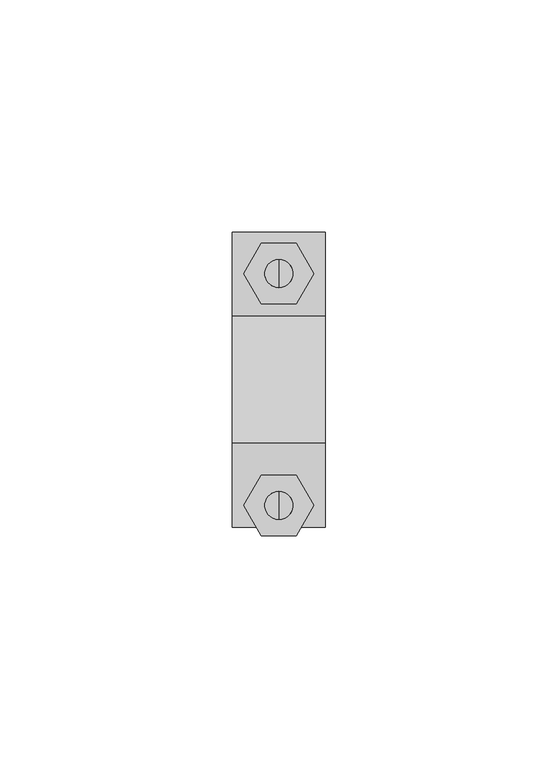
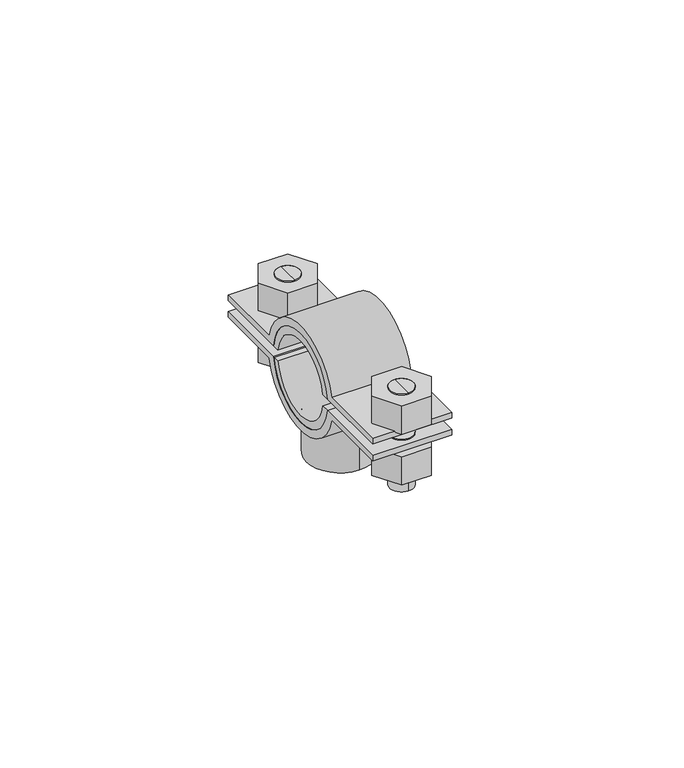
"""IFC4 building model written with IfcOpenShell, lengths in millimetres: valve geometry, Superfix DG2 Clamp Extra (based on pipe) : Superfix DG2 Clamp Extra (based on pipe)."""

from ifc_helpers import new_model, si_unit, point, frame, frame_2d, origin, origin_2d, place, context, project, spatial, polyline, circle_curve, trimmed, segment, composite_curve, outline, extrude, source, transform, mapped, element, save
from ifc_brep_helpers import plane_surface, cylinder_surface, advanced_brep


def valve_709cda98(model_context):
    return source(origin(), model_context, "Body", "SolidModel", [
        advanced_brep(
        [(0.0, 25.875, 342.9002332), (0.0, 19.875, 342.9002332), (0.0, 19.875, 357.0002332), (0.0, 25.875, 357.0002332), (0.0, 22.875, 342.9002332)],
        [
            (0, 1, circle_curve(frame((0.0, 22.875, 342.9002332), z_axis=(0.0, 0.0, 1.0), x_axis=(0.0, 1.0, 0.0)), 3.0)),
            (1, 2),
            (2, 3, circle_curve(frame((0.0, 22.875, 357.0002332), z_axis=(0.0, 0.0, -1.0), x_axis=(0.0, 1.0, 0.0)), 3.0)),
            (3, 0),
            (1, 0, circle_curve(frame((0.0, 22.875, 342.9002332), z_axis=(0.0, 0.0, 1.0), x_axis=(0.0, 1.0, 0.0)), 3.0)),
            (3, 2, circle_curve(frame((0.0, 22.875, 357.0002332), z_axis=(0.0, 0.0, -1.0), x_axis=(0.0, 1.0, 0.0)), 3.0)),
            (0, 4),
            (4, 1),
        ],
        [
            cylinder_surface(frame((0.0, 22.875, 356.7808426), z_axis=(0.0, 0.0, 1.0), x_axis=(0.0, 1.0, 0.0)), 3.0),
            plane_surface(frame((0.0, 22.875, 342.9002332), z_axis=(0.0, 0.0, -1.0), x_axis=(0.0, 1.0, 0.0))),
            plane_surface(frame((13.75, -31.75, 357.0002332), z_axis=(0.0, 0.0, 1.0), x_axis=(-1.0, 0.0, 0.0))),
        ],
        [
            (0, [[1, 2, 3, 4]]),
            (0, [[5, -4, 6, -2]]),
            (1, [[-1, 7, 8]]),
            (1, [[-5, -8, -7]]),
            (2, [[-3, -6]]),
        ],
    ),
        advanced_brep(
        [(0.0, 19.875, 369.1002332), (0.0, 25.875, 369.1002332), (0.0, 25.875, 360.0002332), (0.0, 19.875, 360.0002332), (0.0, 22.875, 369.1002332)],
        [
            (0, 1, circle_curve(frame((0.0, 22.875, 369.1002332), z_axis=(0.0, 0.0, -1.0), x_axis=(0.0, 1.0, 0.0)), 3.0)),
            (1, 2),
            (2, 3, circle_curve(frame((0.0, 22.875, 360.0002332), z_axis=(0.0, 0.0, 1.0), x_axis=(0.0, 1.0, 0.0)), 3.0)),
            (3, 0),
            (1, 0, circle_curve(frame((0.0, 22.875, 369.1002332), z_axis=(0.0, 0.0, -1.0), x_axis=(0.0, 1.0, 0.0)), 3.0)),
            (3, 2, circle_curve(frame((0.0, 22.875, 360.0002332), z_axis=(0.0, 0.0, 1.0), x_axis=(0.0, 1.0, 0.0)), 3.0)),
            (0, 4),
            (4, 1),
        ],
        [
            cylinder_surface(frame((0.0, 22.875, 356.7808426), z_axis=(0.0, 0.0, 1.0), x_axis=(0.0, 1.0, 0.0)), 3.0),
            plane_surface(frame((0.0, 22.875, 369.1002332), z_axis=(0.0, 0.0, 1.0), x_axis=(0.0, 1.0, 0.0))),
            plane_surface(frame((13.75, 31.75, 360.0002332), z_axis=(0.0, 0.0, -1.0), x_axis=(-1.0, 0.0, 0.0))),
        ],
        [
            (0, [[1, 2, 3, 4]]),
            (0, [[5, -4, 6, -2]]),
            (1, [[-1, 7, 8]]),
            (1, [[-5, -8, -7]]),
            (2, [[-3, -6]]),
        ],
    ),
        advanced_brep(
        [(0.0, -30.0, 369.1002332), (0.0, -24.0, 369.1002332), (0.0, -24.0, 360.0002332), (0.0, -30.0, 360.0002332), (0.0, -27.0, 369.1002332)],
        [
            (0, 1, circle_curve(frame((0.0, -27.0, 369.1002332), z_axis=(0.0, 0.0, -1.0), x_axis=(0.0, -1.0, 0.0)), 3.0)),
            (1, 2),
            (2, 3, circle_curve(frame((0.0, -27.0, 360.0002332), z_axis=(0.0, 0.0, 1.0), x_axis=(0.0, -1.0, 0.0)), 3.0)),
            (3, 0),
            (1, 0, circle_curve(frame((0.0, -27.0, 369.1002332), z_axis=(0.0, 0.0, -1.0), x_axis=(0.0, -1.0, 0.0)), 3.0)),
            (3, 2, circle_curve(frame((0.0, -27.0, 360.0002332), z_axis=(0.0, 0.0, 1.0), x_axis=(0.0, -1.0, 0.0)), 3.0)),
            (0, 4),
            (4, 1),
        ],
        [
            cylinder_surface(frame((0.0, -27.0, 356.7808426), z_axis=(0.0, 0.0, -1.0), x_axis=(0.0, -1.0, 0.0)), 3.0),
            plane_surface(frame((0.0, -27.0, 369.1002332), z_axis=(0.0, 0.0, 1.0), x_axis=(0.0, -1.0, 0.0))),
            plane_surface(frame((13.75, 31.75, 360.0002332), z_axis=(0.0, 0.0, -1.0), x_axis=(-1.0, 0.0, 0.0))),
        ],
        [
            (0, [[1, 2, 3, 4]]),
            (0, [[5, -4, 6, -2]]),
            (1, [[-1, 7, 8]]),
            (1, [[-5, -8, -7]]),
            (2, [[-3, -6]]),
        ],
    ),
        advanced_brep(
        [(0.0, -24.0, 342.9002332), (0.0, -30.0, 342.9002332), (0.0, -30.0, 357.0002332), (0.0, -24.0, 357.0002332), (0.0, -27.0, 342.9002332)],
        [
            (0, 1, circle_curve(frame((0.0, -27.0, 342.9002332), z_axis=(0.0, 0.0, 1.0), x_axis=(0.0, -1.0, 0.0)), 3.0)),
            (1, 2),
            (2, 3, circle_curve(frame((0.0, -27.0, 357.0002332), z_axis=(0.0, 0.0, -1.0), x_axis=(0.0, -1.0, 0.0)), 3.0)),
            (3, 0),
            (1, 0, circle_curve(frame((0.0, -27.0, 342.9002332), z_axis=(0.0, 0.0, 1.0), x_axis=(0.0, -1.0, 0.0)), 3.0)),
            (3, 2, circle_curve(frame((0.0, -27.0, 357.0002332), z_axis=(0.0, 0.0, -1.0), x_axis=(0.0, -1.0, 0.0)), 3.0)),
            (0, 4),
            (4, 1),
        ],
        [
            cylinder_surface(frame((0.0, -27.0, 356.7808426), z_axis=(0.0, 0.0, -1.0), x_axis=(0.0, -1.0, 0.0)), 3.0),
            plane_surface(frame((0.0, -27.0, 342.9002332), z_axis=(0.0, 0.0, -1.0), x_axis=(0.0, -1.0, 0.0))),
            plane_surface(frame((13.75, -31.75, 357.0002332), z_axis=(0.0, 0.0, 1.0), x_axis=(-1.0, 0.0, 0.0))),
        ],
        [
            (0, [[1, 2, 3, 4]]),
            (0, [[5, -4, 6, -2]]),
            (1, [[-1, 7, 8]]),
            (1, [[-5, -8, -7]]),
            (2, [[-3, -6]]),
        ],
    ),
        extrude(outline(composite_curve([segment(trimmed(circle_curve(frame_2d((0.0, 358.5002332)), 12.0), [point((-11.9058809, 357.0002332))], [point((11.9058809, 357.0002332))], True, "CARTESIAN"), True, "CONTINUOUS"), segment(polyline([(11.9058809, 357.0002332), (31.75, 357.0002332), (31.75, 355.5002332), (13.6747943, 355.5002332)]), True, "CONTINUOUS"), segment(trimmed(circle_curve(frame_2d((0.0, 358.5002332)), 14.0), [point((13.6747943, 355.5002332))], [point((-13.6747943, 355.5002332))], False, "CARTESIAN"), True, "CONTINUOUS"), segment(polyline([(-13.6747943, 355.5002332), (-31.75, 355.5002332), (-31.75, 357.0002332), (-11.9058809, 357.0002332)]), True, "CONTINUOUS")], self_intersect=False)), frame((-10.0, 0.0, 0.0), z_axis=(1.0, 0.0, 0.0), x_axis=(0.0, 1.0, 0.0)), (0.0, 0.0, 1.0), 20.0),
        extrude(outline(composite_curve([segment(trimmed(circle_curve(frame_2d((0.0, 358.5002332)), 12.0), [point((11.9058809, 360.0002332))], [point((-11.9058809, 360.0002332))], True, "CARTESIAN"), True, "CONTINUOUS"), segment(polyline([(-11.9058809, 360.0002332), (-31.75, 360.0002332), (-31.75, 361.5002332), (-13.6747943, 361.5002332)]), True, "CONTINUOUS"), segment(trimmed(circle_curve(frame_2d((0.0, 358.5002332)), 14.0), [point((-13.6747943, 361.5002332))], [point((13.6747943, 361.5002332))], False, "CARTESIAN"), True, "CONTINUOUS"), segment(polyline([(13.6747943, 361.5002332), (31.75, 361.5002332), (31.75, 360.0002332), (11.9058809, 360.0002332)]), True, "CONTINUOUS")], self_intersect=False)), frame((-10.0, 0.0, 0.0), z_axis=(1.0, 0.0, 0.0), x_axis=(0.0, 1.0, 0.0)), (0.0, 0.0, 1.0), 20.0),
        extrude(outline(polyline([(7.5055535, -27.0), (3.7527767, -33.5), (-3.7527767, -33.5), (-7.5055535, -27.0), (-3.7527767, -20.5), (3.7527767, -20.5), (7.5055535, -27.0)]), holes=[composite_curve([segment(trimmed(circle_curve(frame_2d((0.0, -27.0)), 3.0), [point((3.0, -27.0))], [point((-3.0, -27.0))], True, "CARTESIAN"), True, "CONTINUOUS"), segment(trimmed(circle_curve(frame_2d((0.0, -27.0)), 3.0), [point((-3.0, -27.0))], [point((3.0, -27.0))], True, "CARTESIAN"), True, "CONTINUOUS")], self_intersect=False)]), frame((0.0, 0.0, 361.5002332), z_axis=(0.0, 0.0, 1.0), x_axis=(1.0, 0.0, 0.0)), (0.0, 0.0, 1.0), 7.6),
        extrude(outline(polyline([(7.5055535, 22.875), (3.7527767, 16.375), (-3.7527767, 16.375), (-7.5055535, 22.875), (-3.7527767, 29.375), (3.7527767, 29.375), (7.5055535, 22.875)]), holes=[composite_curve([segment(trimmed(circle_curve(frame_2d((0.0, 22.875)), 3.0), [point((3.0, 22.875))], [point((-3.0, 22.875))], True, "CARTESIAN"), True, "CONTINUOUS"), segment(trimmed(circle_curve(frame_2d((0.0, 22.875)), 3.0), [point((-3.0, 22.875))], [point((3.0, 22.875))], True, "CARTESIAN"), True, "CONTINUOUS")], self_intersect=False)]), frame((0.0, 0.0, 361.5002332), z_axis=(0.0, 0.0, 1.0), x_axis=(1.0, 0.0, 0.0)), (0.0, 0.0, 1.0), 7.6),
        extrude(outline(polyline([(7.5055535, -27.0), (3.7527767, -33.5), (-3.7527767, -33.5), (-7.5055535, -27.0), (-3.7527767, -20.5), (3.7527767, -20.5), (7.5055535, -27.0)]), holes=[composite_curve([segment(trimmed(circle_curve(frame_2d((0.0, -27.0)), 3.0), [point((3.0, -27.0))], [point((-3.0, -27.0))], True, "CARTESIAN"), True, "CONTINUOUS"), segment(trimmed(circle_curve(frame_2d((0.0, -27.0)), 3.0), [point((-3.0, -27.0))], [point((3.0, -27.0))], True, "CARTESIAN"), True, "CONTINUOUS")], self_intersect=False)]), frame((0.0, 0.0, 347.9002332), z_axis=(0.0, 0.0, 1.0), x_axis=(1.0, 0.0, 0.0)), (0.0, 0.0, 1.0), 7.6),
        extrude(outline(polyline([(7.5055535, 22.875), (3.7527767, 16.375), (-3.7527767, 16.375), (-7.5055535, 22.875), (-3.7527767, 29.375), (3.7527767, 29.375), (7.5055535, 22.875)]), holes=[composite_curve([segment(trimmed(circle_curve(frame_2d((0.0, 22.875)), 3.0), [point((3.0, 22.875))], [point((-3.0, 22.875))], True, "CARTESIAN"), True, "CONTINUOUS"), segment(trimmed(circle_curve(frame_2d((0.0, 22.875)), 3.0), [point((-3.0, 22.875))], [point((3.0, 22.875))], True, "CARTESIAN"), True, "CONTINUOUS")], self_intersect=False)]), frame((0.0, 0.0, 347.9002332), z_axis=(0.0, 0.0, 1.0), x_axis=(1.0, 0.0, 0.0)), (0.0, 0.0, 1.0), 7.6),
        extrude(outline(composite_curve([segment(trimmed(circle_curve(origin_2d(), 8.5), [point((0.0, 8.5))], [point((0.0, -8.5))], False, "CARTESIAN"), True, "CONTINUOUS"), segment(trimmed(circle_curve(origin_2d(), 8.5), [point((0.0, -8.5))], [point((0.0, 8.5))], False, "CARTESIAN"), True, "CONTINUOUS")], self_intersect=False), holes=[composite_curve([segment(trimmed(circle_curve(origin_2d(), 5.0), [point((0.0, 5.0))], [point((0.0, -5.0))], True, "CARTESIAN"), True, "CONTINUOUS"), segment(trimmed(circle_curve(origin_2d(), 5.0), [point((0.0, -5.0))], [point((0.0, 5.0))], True, "CARTESIAN"), True, "CONTINUOUS")], self_intersect=False)]), frame((0.0, 0.0, 335.5002332), z_axis=(0.0, 0.0, 1.0), x_axis=(1.0, 0.0, 0.0)), (0.0, 0.0, 1.0), 11.5),
        extrude(outline(composite_curve([segment(trimmed(circle_curve(frame_2d((0.0, 358.5002332)), 10.0), [point((9.88686, 360.0002332))], [point((-9.88686, 360.0002332))], True, "CARTESIAN"), True, "CONTINUOUS"), segment(polyline([(-9.88686, 360.0002332), (-11.9058809, 360.0002332)]), True, "CONTINUOUS"), segment(trimmed(circle_curve(frame_2d((0.0, 358.5002332)), 12.0), [point((-11.9058809, 360.0002332))], [point((11.9058809, 360.0002332))], False, "CARTESIAN"), True, "CONTINUOUS"), segment(polyline([(11.9058809, 360.0002332), (9.88686, 360.0002332)]), True, "CONTINUOUS")], self_intersect=False)), frame((-10.0, 0.0, 0.0), z_axis=(1.0, 0.0, 0.0), x_axis=(0.0, 1.0, 0.0)), (0.0, 0.0, 1.0), 20.0),
        extrude(outline(composite_curve([segment(polyline([(9.88686, 357.0002332), (11.9058809, 357.0002332)]), True, "CONTINUOUS"), segment(trimmed(circle_curve(frame_2d((0.0, 358.5002332)), 12.0), [point((11.9058809, 357.0002332))], [point((-11.9058809, 357.0002332))], False, "CARTESIAN"), True, "CONTINUOUS"), segment(polyline([(-11.9058809, 357.0002332), (-9.88686, 357.0002332)]), True, "CONTINUOUS"), segment(trimmed(circle_curve(frame_2d((0.0, 358.5002332)), 10.0), [point((-9.88686, 357.0002332))], [point((9.88686, 357.0002332))], True, "CARTESIAN"), True, "CONTINUOUS")], self_intersect=False)), frame((-10.0, 0.0, 0.0), z_axis=(1.0, 0.0, 0.0), x_axis=(0.0, 1.0, 0.0)), (0.0, 0.0, 1.0), 20.0),
    ])


if __name__ == "__main__":
    model = new_model("IFC4")
    model_context = context("Model", 3, world=origin())
    ifc_project = project(units=[si_unit("LENGTHUNIT", "METRE", prefix="MILLI")], contexts=[model_context])
    site = spatial("IfcSite", under=ifc_project)
    building = spatial("IfcBuilding", under=site)
    placement = place(None, origin())
    valve_shape = valve_709cda98(model_context)
    element("IfcValve", 1, ObjectType="Superfix DG2 Clamp Extra (based on pipe) : Superfix DG2 Clamp Extra (based on pipe)", at=placement, inside=building, context=model_context, shape_type="MappedRepresentation", body=[
        mapped(valve_shape, transform((0.0, 0.0, 0.0), x_axis=(1.0, 0.0, 0.0), y_axis=(0.0, 1.0, 0.0), z_axis=(0.0, 0.0, 1.0))),
    ])
    save(model, "model.ifc")
